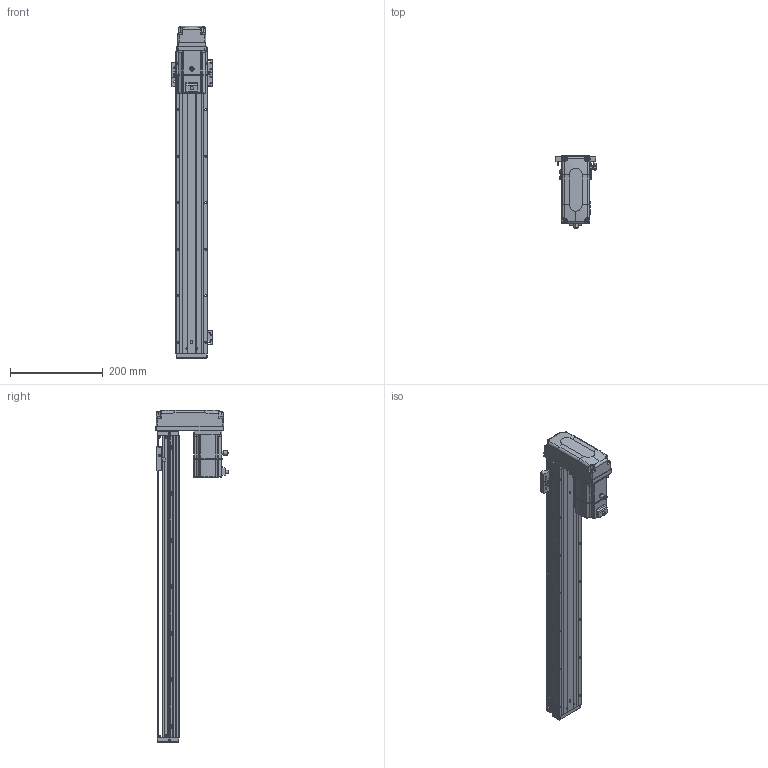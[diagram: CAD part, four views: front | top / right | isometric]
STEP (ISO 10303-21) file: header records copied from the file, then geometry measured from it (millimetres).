
FILE_DESCRIPTION (( 'STEP AP203' ), '1' );
FILE_NAME ('KTHA60-550-BM-M20-C4L.step', '2022-12-16T01:35:56', ( '微软用户' ), ( '微软中国' ), 'SwSTEP 2.0', 'SolidWorks 2020', '' );
FILE_SCHEMA (( 'CONFIG_CONTROL_DESIGN' ));
Length unit declared in the file: millimetre
Products named in the file (17): CTHA60-016; EE_SX911P_R; KTHA60-002; CTHA60-017; BTH80-026; KTHA60-001_650; CTHA60-021; CTHA60-006-2_CTHA60-006-2; KTHA60-004; GBT 70.1-M4×16; _X2_4E0983F1_X0_200W_1; KTHA60-005; GBT77-2000M3-3; KTHA60-550-BM-M20-C4L; GB¨uT 70.2-M3¡Á5_M3¡Á6; GBT 70.1-M3℅6; GBT 70.3-M3℅6
Assembly tree (51 placements, depth 2):
  KTHA60-550-BM-M20-C4L
    KTHA60-001_650
    KTHA60-004
    KTHA60-005
    GB¨uT 70.2-M3¡Á5_M3¡Á6  x6
    GBT 70.3-M3℅6  x4
    EE_SX911P_R  x3
    CTHA60-017  x3
    CTHA60-021  x2
    GBT 70.1-M4×16  x8
    GBT77-2000M3-3  x6
    GBT 70.1-M3℅6  x10
    CTHA60-016  x2
    KTHA60-002
    BTH80-026
    CTHA60-006-2_CTHA60-006-2
    _X2_4E0983F1_X0_200W_1
Bounding box: 87.72 x 155.2 x 714 mm (x, y, z)
Volume: 1552766.2 mm3; surface area: 410690.5 mm2
Topology: 54 solids, 54 shells, 2448 faces, 5829 edges, 3586 vertices
Faces by surface type: plane 1297, cylinder 650, cone 284, bspline 109, torus 92, sphere 16
Entity records: 45532 total; most frequent: CARTESIAN_POINT 10594, ORIENTED_EDGE 6706, DIRECTION 6698, EDGE_CURVE 3353, AXIS2_PLACEMENT_3D 2309, VERTEX_POINT 2095, LINE 2080, VECTOR 2080
